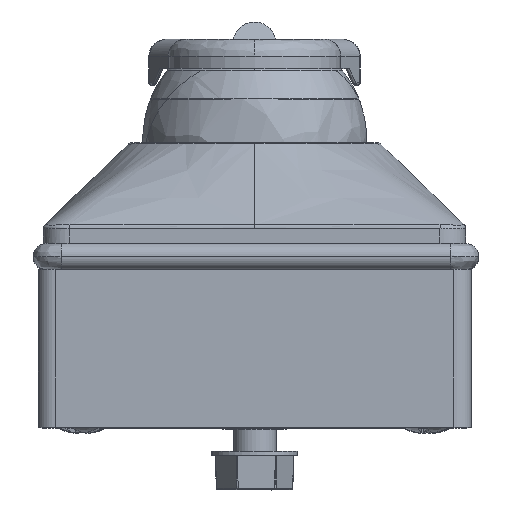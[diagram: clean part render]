
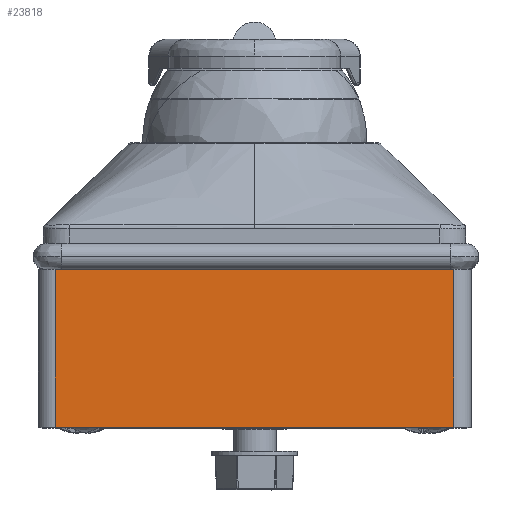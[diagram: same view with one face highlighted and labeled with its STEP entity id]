
A CAD part, top view. The second image highlights one B-rep face of the part: STEP entity #23818.
In plain terms, the highlighted planar face has unit normal (0, 0, 1) as drawn and (0, -1, 0) by its records, which use the part's own axes.
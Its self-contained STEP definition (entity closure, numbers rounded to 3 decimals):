
#6877 = CARTESIAN_POINT ( 'NONE',  ( 2., 0., 18.3 ) ) ;
#7529 = CARTESIAN_POINT ( 'NONE',  ( 48.2, 0., 18.3 ) ) ;
#7530 = DIRECTION ( 'NONE',  ( 0., 0., -1. ) ) ;
#7531 = VECTOR ( 'NONE', #7530, 1000. ) ;
#7532 = CARTESIAN_POINT ( 'NONE',  ( 48.2, 0., 18.3 ) ) ;
#7548 = AXIS2_PLACEMENT_3D ( 'NONE', #7564, #7563, #7556 ) ;
#7556 = DIRECTION ( 'NONE',  ( 0., 0., 1. ) ) ;
#7561 = LINE ( 'NONE', #7532, #7531 ) ;
#7563 = DIRECTION ( 'NONE',  ( 0., 1., 0. ) ) ;
#7564 = CARTESIAN_POINT ( 'NONE',  ( 0., 0., 18.3 ) ) ;
#7565 = CARTESIAN_POINT ( 'NONE',  ( 48.2, 0., 0. ) ) ;
#7568 = PLANE ( 'NONE',  #7548 ) ;
#7573 = FACE_OUTER_BOUND ( 'NONE', #23746, .T. ) ;
#11554 = LINE ( 'NONE', #11586, #11620 ) ;
#11586 = CARTESIAN_POINT ( 'NONE',  ( 0., 0., 18.3 ) ) ;
#11620 = VECTOR ( 'NONE', #11621, 1000. ) ;
#11621 = DIRECTION ( 'NONE',  ( 1., 0., 0. ) ) ;
#13085 = DIRECTION ( 'NONE',  ( -1., 0., 0. ) ) ;
#13086 = VECTOR ( 'NONE', #13085, 1000. ) ;
#13088 = CARTESIAN_POINT ( 'NONE',  ( 0., 0., 0. ) ) ;
#13090 = LINE ( 'NONE', #13088, #13086 ) ;
#13112 = LINE ( 'NONE', #13400, #13399 ) ;
#13398 = DIRECTION ( 'NONE',  ( 0., 0., 1. ) ) ;
#13399 = VECTOR ( 'NONE', #13398, 1000. ) ;
#13400 = CARTESIAN_POINT ( 'NONE',  ( 2., 0., 18.3 ) ) ;
#14694 = CARTESIAN_POINT ( 'NONE',  ( 2., 0., 0. ) ) ;
#23580 = VERTEX_POINT ( 'NONE', #6877 ) ;
#23616 = EDGE_CURVE ( 'NONE', #23580, #23846, #11554, .T. ) ;
#23746 = EDGE_LOOP ( 'NONE', ( #23900, #23987, #23988, #24175 ) ) ;
#23818 = ADVANCED_FACE ( 'NONE', ( #7573 ), #7568, .F. ) ;
#23839 = VERTEX_POINT ( 'NONE', #7565 ) ;
#23845 = EDGE_CURVE ( 'NONE', #23846, #23839, #7561, .T. ) ;
#23846 = VERTEX_POINT ( 'NONE', #7529 ) ;
#23900 = ORIENTED_EDGE ( 'NONE', *, *, #23845, .F. ) ;
#23987 = ORIENTED_EDGE ( 'NONE', *, *, #23616, .F. ) ;
#23988 = ORIENTED_EDGE ( 'NONE', *, *, #24185, .F. ) ;
#24064 = VERTEX_POINT ( 'NONE', #14694 ) ;
#24175 = ORIENTED_EDGE ( 'NONE', *, *, #24176, .F. ) ;
#24176 = EDGE_CURVE ( 'NONE', #23839, #24064, #13090, .T. ) ;
#24185 = EDGE_CURVE ( 'NONE', #24064, #23580, #13112, .T. ) ;
